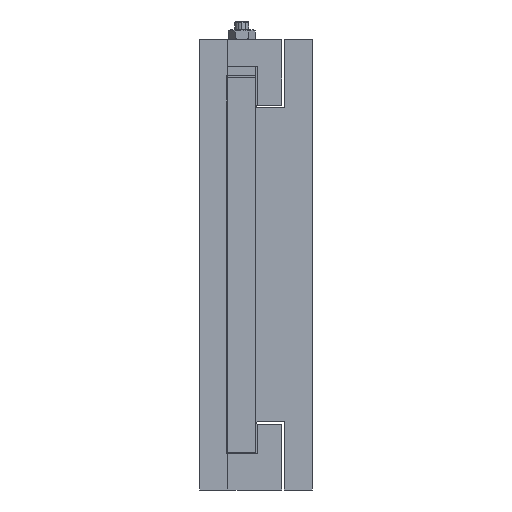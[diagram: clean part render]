
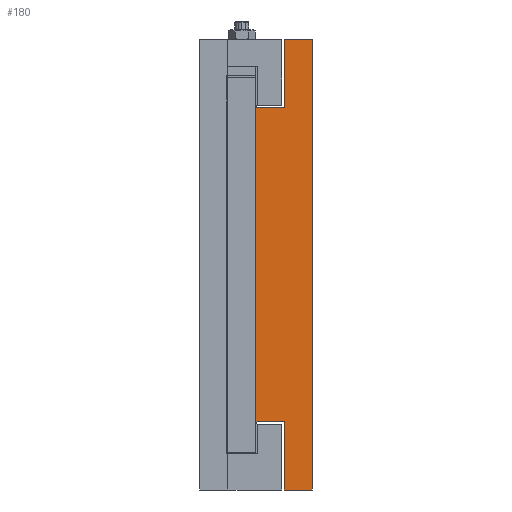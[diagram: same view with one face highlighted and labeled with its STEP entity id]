
A CAD part, left-side view. The second image highlights one B-rep face of the part: STEP entity #180.
In plain terms, the highlighted planar face has unit normal (-1, 0, 0).
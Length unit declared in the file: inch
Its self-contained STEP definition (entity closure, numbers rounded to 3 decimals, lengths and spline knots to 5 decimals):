
#131 = VERTEX_POINT ( 'NONE', #1244 ) ;
#143 = EDGE_CURVE ( 'NONE', #150, #131, #1276, .T. ) ;
#150 = VERTEX_POINT ( 'NONE', #1288 ) ;
#166 = VERTEX_POINT ( 'NONE', #1310 ) ;
#176 = ORIENTED_EDGE ( 'NONE', *, *, #7693, .T. ) ;
#177 = ORIENTED_EDGE ( 'NONE', *, *, #7689, .F. ) ;
#178 = VERTEX_POINT ( 'NONE', #1306 ) ;
#179 = EDGE_CURVE ( 'NONE', #166, #181, #1303, .T. ) ;
#180 = ADVANCED_FACE ( 'NONE', ( #1356 ), #1353, .F. ) ;
#181 = VERTEX_POINT ( 'NONE', #1347 ) ;
#1244 = CARTESIAN_POINT ( 'NONE',  ( 0., 1.5, 4.1875 ) ) ;
#1273 = DIRECTION ( 'NONE',  ( 0., 0., 1. ) ) ;
#1274 = VECTOR ( 'NONE', #1273, 39.37008 ) ;
#1275 = CARTESIAN_POINT ( 'NONE',  ( 0., 1.5, 6. ) ) ;
#1276 = LINE ( 'NONE', #1275, #1274 ) ;
#1288 = CARTESIAN_POINT ( 'NONE',  ( 0., 1.5, -4.1875 ) ) ;
#1293 = CARTESIAN_POINT ( 'NONE',  ( 0., 0., 6. ) ) ;
#1303 = LINE ( 'NONE', #1350, #1349 ) ;
#1306 = CARTESIAN_POINT ( 'NONE',  ( 0., 0., -6. ) ) ;
#1310 = CARTESIAN_POINT ( 'NONE',  ( 0., 0.75, -4.1875 ) ) ;
#1344 = DIRECTION ( 'NONE',  ( 0., 0., -1. ) ) ;
#1345 = DIRECTION ( 'NONE',  ( 1., 0., 0. ) ) ;
#1347 = CARTESIAN_POINT ( 'NONE',  ( 0., 0.75, -6. ) ) ;
#1348 = DIRECTION ( 'NONE',  ( 0., 0., -1. ) ) ;
#1349 = VECTOR ( 'NONE', #1348, 39.37008 ) ;
#1350 = CARTESIAN_POINT ( 'NONE',  ( 0., 0.75, -6. ) ) ;
#1351 = AXIS2_PLACEMENT_3D ( 'NONE', #1293, #1345, #1344 ) ;
#1353 = PLANE ( 'NONE',  #1351 ) ;
#1356 = FACE_OUTER_BOUND ( 'NONE', #6612, .T. ) ;
#3441 = CARTESIAN_POINT ( 'NONE',  ( 0., 0., 6. ) ) ;
#3480 = CARTESIAN_POINT ( 'NONE',  ( 0., 0.75, 4.1875 ) ) ;
#3748 = LINE ( 'NONE', #3791, #3790 ) ;
#3789 = DIRECTION ( 'NONE',  ( 0., 0., -1. ) ) ;
#3790 = VECTOR ( 'NONE', #3789, 39.37008 ) ;
#3791 = CARTESIAN_POINT ( 'NONE',  ( 0., 0.75, 6. ) ) ;
#4331 = CARTESIAN_POINT ( 'NONE',  ( 0., 1.5, -4.1875 ) ) ;
#4333 = LINE ( 'NONE', #4331, #4591 ) ;
#4574 = DIRECTION ( 'NONE',  ( 0., -1., 0. ) ) ;
#4591 = VECTOR ( 'NONE', #4574, 39.37008 ) ;
#5279 = CARTESIAN_POINT ( 'NONE',  ( 0., 0., 6. ) ) ;
#5280 = LINE ( 'NONE', #5279, #5313 ) ;
#5307 = DIRECTION ( 'NONE',  ( 0., 1., 0. ) ) ;
#5308 = VECTOR ( 'NONE', #5307, 39.37008 ) ;
#5309 = CARTESIAN_POINT ( 'NONE',  ( 0., 1.5, -6. ) ) ;
#5310 = LINE ( 'NONE', #5309, #5308 ) ;
#5312 = DIRECTION ( 'NONE',  ( 0., 0., -1. ) ) ;
#5313 = VECTOR ( 'NONE', #5312, 39.37008 ) ;
#5315 = CARTESIAN_POINT ( 'NONE',  ( 0., 0.75, 6. ) ) ;
#5333 = LINE ( 'NONE', #5390, #5360 ) ;
#5353 = DIRECTION ( 'NONE',  ( 0., -1., 0. ) ) ;
#5354 = VECTOR ( 'NONE', #5353, 39.37008 ) ;
#5355 = CARTESIAN_POINT ( 'NONE',  ( 0., 1.5, 6. ) ) ;
#5356 = LINE ( 'NONE', #5355, #5354 ) ;
#5360 = VECTOR ( 'NONE', #5385, 39.37008 ) ;
#5385 = DIRECTION ( 'NONE',  ( 0., 1., 0. ) ) ;
#5390 = CARTESIAN_POINT ( 'NONE',  ( 0., 1.5, 4.1875 ) ) ;
#6612 = EDGE_LOOP ( 'NONE', ( #176, #7692, #177, #7687, #6833, #7706, #7705, #6669 ) ) ;
#6669 = ORIENTED_EDGE ( 'NONE', *, *, #143, .F. ) ;
#6670 = VERTEX_POINT ( 'NONE', #3441 ) ;
#6735 = VERTEX_POINT ( 'NONE', #3480 ) ;
#6832 = EDGE_CURVE ( 'NONE', #7691, #6735, #3748, .T. ) ;
#6833 = ORIENTED_EDGE ( 'NONE', *, *, #7699, .F. ) ;
#7687 = ORIENTED_EDGE ( 'NONE', *, *, #7688, .F. ) ;
#7688 = EDGE_CURVE ( 'NONE', #6670, #178, #5280, .T. ) ;
#7689 = EDGE_CURVE ( 'NONE', #178, #181, #5310, .T. ) ;
#7691 = VERTEX_POINT ( 'NONE', #5315 ) ;
#7692 = ORIENTED_EDGE ( 'NONE', *, *, #179, .T. ) ;
#7693 = EDGE_CURVE ( 'NONE', #150, #166, #4333, .T. ) ;
#7699 = EDGE_CURVE ( 'NONE', #7691, #6670, #5356, .T. ) ;
#7705 = ORIENTED_EDGE ( 'NONE', *, *, #7707, .T. ) ;
#7706 = ORIENTED_EDGE ( 'NONE', *, *, #6832, .T. ) ;
#7707 = EDGE_CURVE ( 'NONE', #6735, #131, #5333, .T. ) ;
